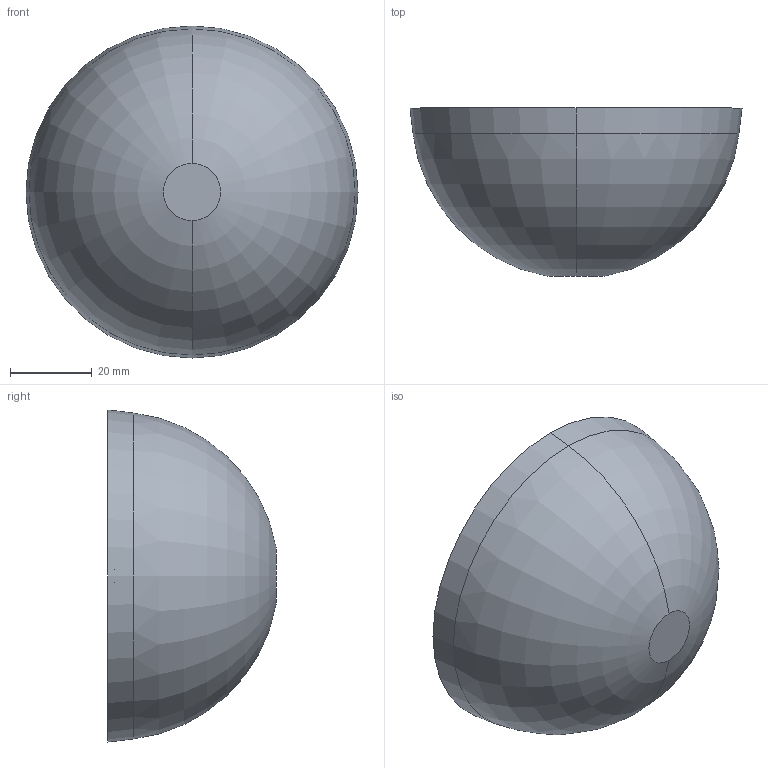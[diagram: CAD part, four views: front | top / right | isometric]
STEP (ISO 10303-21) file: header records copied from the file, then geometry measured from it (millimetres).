
FILE_DESCRIPTION (( 'STEP AP203' ), '1' );
FILE_NAME ('Halbschale.STEP', '2020-12-03T12:36:58', ( '' ), ( '' ), 'SwSTEP 2.0', 'SolidWorks 2020', '' );
FILE_SCHEMA (( 'CONFIG_CONTROL_DESIGN' ));
Length unit declared in the file: millimetre
Products named in the file (1): Halbschale
Bounding box: 81 x 41 x 81 mm (x, y, z)
Volume: 16061.5 mm3; surface area: 22075.9 mm2
Topology: 1 solids, 1 shells, 71 faces, 193 edges, 126 vertices
Faces by surface type: plane 52, torus 9, cylinder 8, cone 2
Entity records: 2376 total; most frequent: CARTESIAN_POINT 490, ORIENTED_EDGE 386, DIRECTION 365, EDGE_CURVE 193, LINE 143, VECTOR 143, VERTEX_POINT 126, AXIS2_PLACEMENT_3D 111
